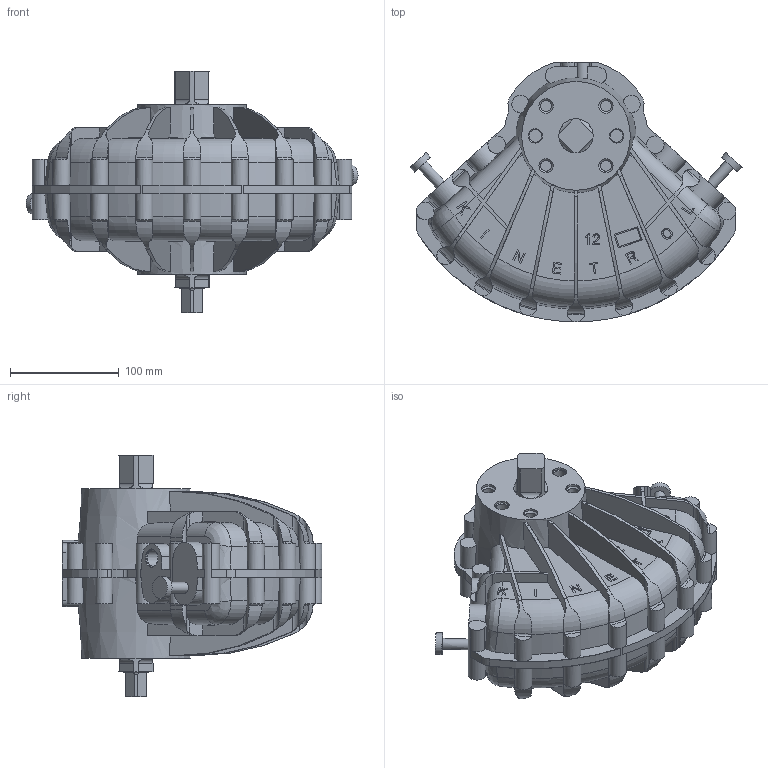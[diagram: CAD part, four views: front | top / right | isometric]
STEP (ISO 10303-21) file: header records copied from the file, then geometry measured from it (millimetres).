
FILE_DESCRIPTION( ( 'Unknown' ), '1' );
FILE_NAME( 'H:/3D Models for Customers/ACTUATOR MODELS OMO TO 300 (.pwd & .stp & .igs & .asm)/124-100.stp', 'Unknown', ( 'KINETROL' ), ( 'Unknown' ), 'XStep 1.0', 'Unknown', ' ' );
FILE_SCHEMA( ( 'CONFIG_CONTROL_DESIGN' ) );
Length unit declared in the file: millimetre
Products named in the file (1): 1
Bounding box: 305.49 x 239 x 222.5 mm (x, y, z)
Surface area: 283508.2 mm2 (no closed solid volume)
Topology: 0 solids, 812 shells, 814 faces, 4415 edges, 4345 vertices
Faces by surface type: plane 437, cylinder 187, extrusion 82, torus 48, cone 36, bspline 24
Full cylindrical faces by diameter (mm): 3.3 x4, 4.134 x4, 10 x2, 10.1 x8, 11.65 x4, 13.15 x8, 13.25 x4, 15.2 x2, 16 x4, 16.75 x2, 20 x2, 31.5 x2
Entity records: 53226 total; most frequent: CARTESIAN_POINT 22785, DIRECTION 5706, ORIENTED_EDGE 4298, EDGE_CURVE 4298, VERTEX_POINT 4298, VECTOR 2204, LINE 2122, AXIS2_PLACEMENT_3D 1751
